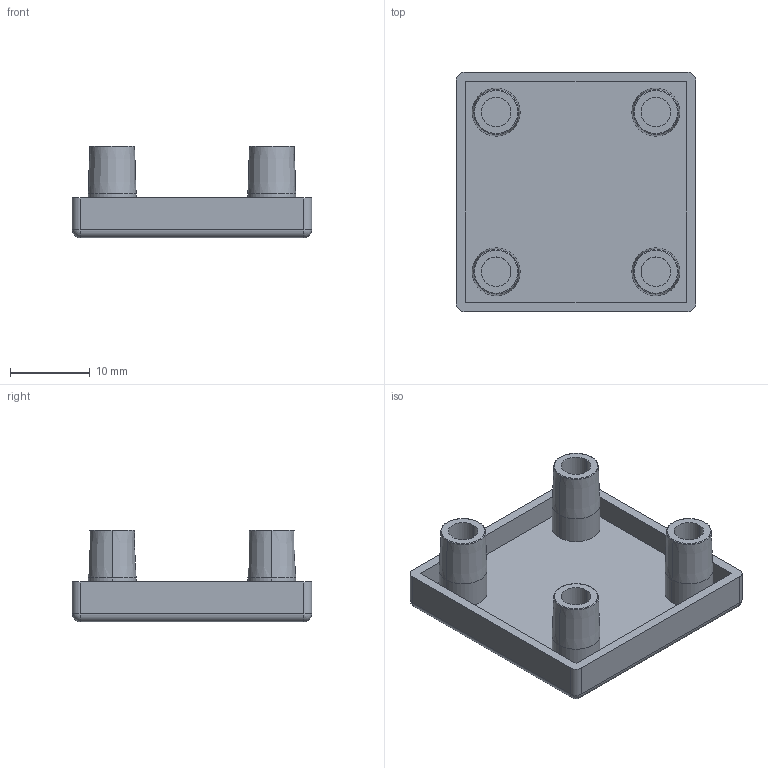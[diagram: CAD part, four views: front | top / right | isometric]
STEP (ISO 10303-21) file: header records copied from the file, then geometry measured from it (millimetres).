
FILE_DESCRIPTION (( 'STEP AP203' ), '1' );
FILE_NAME ('DEC3030.STEP', '2022-06-24T01:34:37', ( '' ), ( '' ), 'SwSTEP 2.0', 'SolidWorks 2017', '' );
FILE_SCHEMA (( 'CONFIG_CONTROL_DESIGN' ));
Length unit declared in the file: millimetre
Products named in the file (1): DEC3030
Bounding box: 30 x 30 x 11.5 mm (x, y, z)
Volume: 2806.8 mm3; surface area: 3795.5 mm2
Topology: 1 solids, 1 shells, 63 faces, 132 edges, 76 vertices
Faces by surface type: cylinder 24, plane 19, torus 8, cone 8, sphere 4
Entity records: 1727 total; most frequent: DIRECTION 328, CARTESIAN_POINT 268, ORIENTED_EDGE 256, AXIS2_PLACEMENT_3D 136, EDGE_CURVE 128, VERTEX_POINT 76, CIRCLE 72, EDGE_LOOP 72
